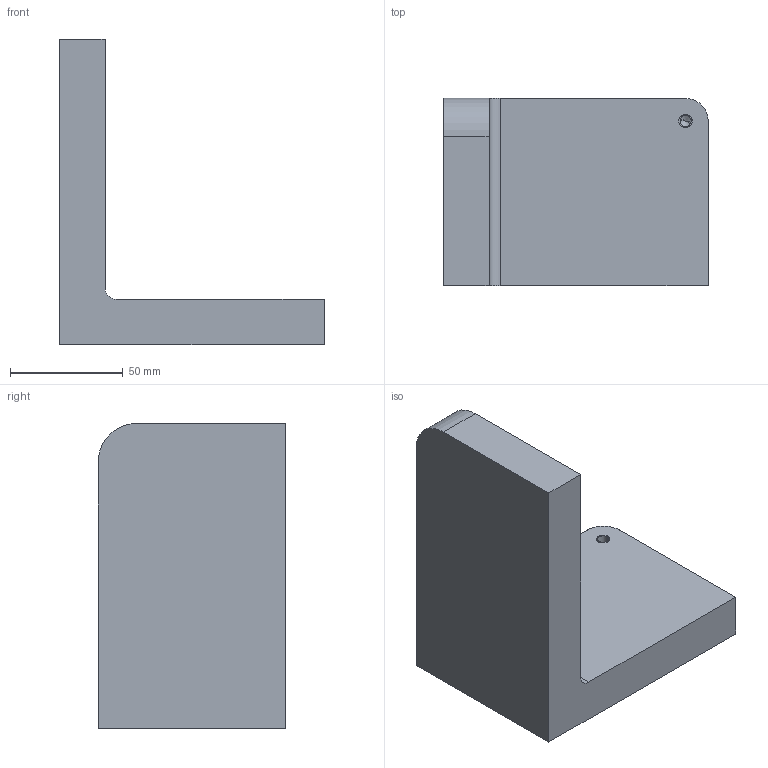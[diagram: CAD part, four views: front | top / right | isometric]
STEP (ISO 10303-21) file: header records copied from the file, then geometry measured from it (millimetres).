
FILE_DESCRIPTION(('CATIA V5 STEP Exchange'),'2;1');
FILE_NAME('C:\_Andres\UNIVERSIDAD\IQS\ASIGNATURAS\DAO\EXF\EXF-16172c\2inicio\Lopez_Triquell_Ej01_v17.stp','2017-03-05T15:11:07+00:00',('none'),('none'),'CATIA Version 5-6 Release 2014 SP1 HF18','CATIA V5 STEP AP203','none');
FILE_SCHEMA(('CONFIG_CONTROL_DESIGN'));
Length unit declared in the file: millimetre
Products named in the file (1): Lopez_Triquell_Ej01_v17
Bounding box: 117 x 83 x 135 mm (x, y, z)
Volume: 383582.9 mm3; surface area: 51022.2 mm2
Topology: 1 solids, 2 shells, 17 faces, 43 edges, 27 vertices
Faces by surface type: plane 8, cylinder 7, cone 2
Entity records: 513 total; most frequent: CARTESIAN_POINT 83, ORIENTED_EDGE 78, DIRECTION 69, EDGE_CURVE 41, AXIS2_PLACEMENT_3D 29, VECTOR 27, LINE 27, VERTEX_POINT 27
